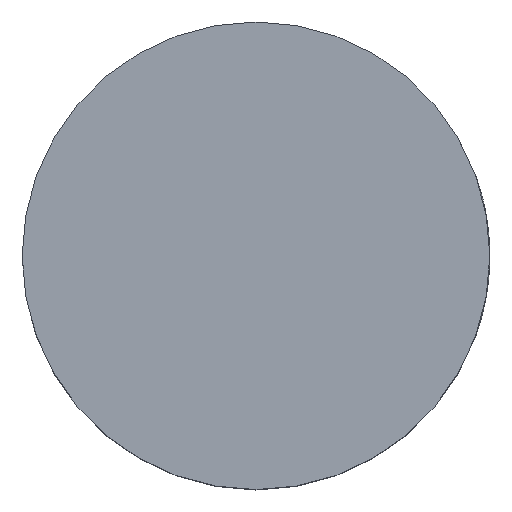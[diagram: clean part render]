
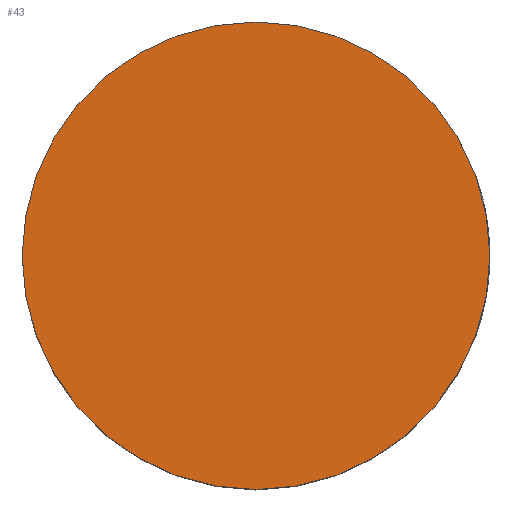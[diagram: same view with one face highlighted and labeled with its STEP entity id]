
A CAD part, top view. The second image highlights one B-rep face of the part: STEP entity #43.
In plain terms, the highlighted planar face has unit normal (0, 0, 1).
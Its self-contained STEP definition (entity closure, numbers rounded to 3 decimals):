
#43 = ADVANCED_FACE ( 'NONE', ( #459 ), #45, .F. ) ;
#45 = PLANE ( 'NONE',  #382 ) ;
#130 = CARTESIAN_POINT ( 'NONE',  ( 0., 0., 22. ) ) ;
#164 = AXIS2_PLACEMENT_3D ( 'NONE', #130, #502, #443 ) ;
#181 = CARTESIAN_POINT ( 'NONE',  ( 20.5, 0., 22. ) ) ;
#195 = ORIENTED_EDGE ( 'NONE', *, *, #458, .T. ) ;
#267 = CIRCLE ( 'NONE', #164, 20.5 ) ;
#359 = CARTESIAN_POINT ( 'NONE',  ( 0., 0., 22. ) ) ;
#366 = DIRECTION ( 'NONE',  ( 0., 0., -1. ) ) ;
#382 = AXIS2_PLACEMENT_3D ( 'NONE', #181, #366, #572 ) ;
#394 = DIRECTION ( 'NONE',  ( 1., 0., 0. ) ) ;
#425 = EDGE_CURVE ( 'NONE', #486, #469, #267, .T. ) ;
#434 = EDGE_LOOP ( 'NONE', ( #513, #195 ) ) ;
#443 = DIRECTION ( 'NONE',  ( 1., 0., 0. ) ) ;
#458 = EDGE_CURVE ( 'NONE', #469, #486, #479, .T. ) ;
#459 = FACE_OUTER_BOUND ( 'NONE', #434, .T. ) ;
#469 = VERTEX_POINT ( 'NONE', #519 ) ;
#479 = CIRCLE ( 'NONE', #525, 20.5 ) ;
#486 = VERTEX_POINT ( 'NONE', #554 ) ;
#502 = DIRECTION ( 'NONE',  ( 0., 0., 1. ) ) ;
#506 = DIRECTION ( 'NONE',  ( 0., 0., 1. ) ) ;
#513 = ORIENTED_EDGE ( 'NONE', *, *, #425, .T. ) ;
#519 = CARTESIAN_POINT ( 'NONE',  ( -20.5, 0., 22. ) ) ;
#525 = AXIS2_PLACEMENT_3D ( 'NONE', #359, #506, #394 ) ;
#554 = CARTESIAN_POINT ( 'NONE',  ( 20.5, 0., 22. ) ) ;
#572 = DIRECTION ( 'NONE',  ( -1., 0., 0. ) ) ;
